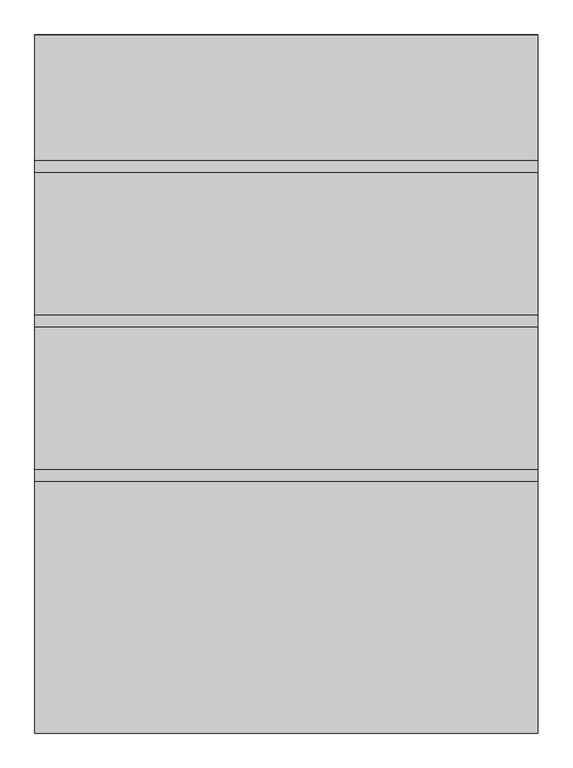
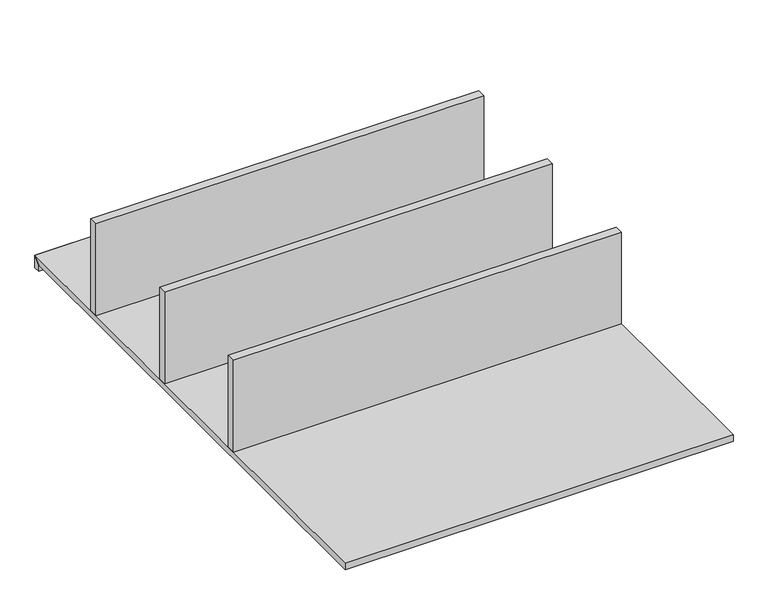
"""IFC4 building model written with IfcOpenShell, lengths in millimetres: proxy geometry, BASYS^U OFFICE 6_ 44 WALL HUNG SHELVES-PARTS SOLID."""

import ifcopenshell
import ifcopenshell.guid

model = None  # the IFC model being written
_history = None  # IfcOwnerHistory: only IFC2X3 demands one
_inside = {}  # id of a spatial element -> (the spatial element, [elements in it])
_under = {}  # id of a project, library or spatial element -> (it, [spatial elements below it])
_declared = {}  # id of a project -> (the project, [libraries it declares])
_typed = {}  # id of a type object -> (the type object, [elements of that type])
_made_of = {}  # id of a material, layer set ... -> (it, [elements and type objects made of it])


def new_model(schema):
    """Start an empty IFC model of exactly this schema.

    Asked for "IFC4X3", IfcOpenShell would pick the latest addendum, in which some entities
    have other attributes; the version numbers below select the first issue.
    IFC2X3 requires an IfcOwnerHistory on every rooted entity: one is made here for all.
    """
    global model, _history
    if schema == "IFC4X3":
        model = ifcopenshell.file(schema_version=(4, 3, 0, 0))
    else:
        model = ifcopenshell.file(schema=schema)
    _inside.clear()
    _under.clear()
    _declared.clear()
    _typed.clear()
    _made_of.clear()
    _history = None
    if model.schema == "IFC2X3":
        org = make("IfcOrganization", Name="unknown")
        user = make(
            "IfcPersonAndOrganization",
            ThePerson=make("IfcPerson", FamilyName="unknown"),
            TheOrganization=org,
        )
        app = make(
            "IfcApplication",
            ApplicationDeveloper=org,
            Version="unknown",
            ApplicationFullName="unknown",
            ApplicationIdentifier="unknown",
        )
        _history = make(
            "IfcOwnerHistory",
            OwningUser=user,
            OwningApplication=app,
            ChangeAction="ADDED",
            CreationDate=0,
        )
    return model


def make(cls, **values):
    """One entity of the class cls with the attributes given. An attribute that is None is left unset."""
    return model.create_entity(
        cls, **{name: value for name, value in values.items() if value is not None}
    )


def rooted(cls, **values):
    """An entity with a GlobalId (a new one), such as an element, a storey or a relation."""
    return make(cls, GlobalId=ifcopenshell.guid.new(), OwnerHistory=_history, **values)


def si_unit(unit_type, name, prefix=None):
    """IfcSIUnit, for example si_unit("LENGTHUNIT", "METRE", prefix="MILLI")."""
    return make("IfcSIUnit", UnitType=unit_type, Prefix=prefix, Name=name)


def assignment(units):
    """IfcUnitAssignment: the units of a project."""
    return None if units is None else make("IfcUnitAssignment", Units=units)


def point(xyz):
    """IfcCartesianPoint."""
    return None if xyz is None else make("IfcCartesianPoint", Coordinates=xyz)


def direction(xyz):
    """IfcDirection."""
    return None if xyz is None else make("IfcDirection", DirectionRatios=xyz)


def frame(location, z_axis=None, x_axis=None):
    """IfcAxis2Placement3D, a coordinate frame: its origin and axes. An axis left out is left unset."""
    return make(
        "IfcAxis2Placement3D",
        Location=point(location),
        Axis=direction(z_axis),
        RefDirection=direction(x_axis),
    )


def origin():
    """The frame at (0, 0, 0) with its axes left unset."""
    return frame((0.0, 0.0, 0.0))


def place(relative_to, where):
    """IfcLocalPlacement: puts the frame where relative to a parent placement (None: the world)."""
    return make(
        "IfcLocalPlacement", PlacementRelTo=relative_to, RelativePlacement=where
    )


def context(
    kind, dimensions, precision=None, world=None, true_north=None, identifier=None
):
    """IfcGeometricRepresentationContext, for example the 3D "Model" context."""
    return make(
        "IfcGeometricRepresentationContext",
        ContextIdentifier=identifier,
        ContextType=kind,
        CoordinateSpaceDimension=dimensions,
        Precision=precision,
        WorldCoordinateSystem=world,
        TrueNorth=true_north,
    )


def project(units=None, contexts=None):
    """IfcProject with its units and contexts."""
    return rooted(
        "IfcProject",
        Name="project",
        RepresentationContexts=contexts,
        UnitsInContext=assignment(units),
    )


def spatial(cls, under=None, at=None, **own):
    """A site, building, storey or space (cls), placed at a placement, below another one or the project."""
    s = rooted(cls, ObjectPlacement=at, **own)
    if under is not None:
        _under.setdefault(under.id(), (under, []))[1].append(s)
    return s


def polyline(points):
    """IfcPolyline through the points."""
    return make("IfcPolyline", Points=[point(p) for p in points])


def outline(outer, holes=None, kind="AREA"):
    """IfcArbitraryClosedProfileDef: a profile drawn as a closed curve; with holes, ...WithVoids."""
    if holes is None:
        return make("IfcArbitraryClosedProfileDef", ProfileType=kind, OuterCurve=outer)
    return make(
        "IfcArbitraryProfileDefWithVoids",
        ProfileType=kind,
        OuterCurve=outer,
        InnerCurves=holes,
    )


def extrude(swept, where, along, depth):
    """IfcExtrudedAreaSolid: the profile swept, set in the frame where, extruded along a direction by depth."""
    return make(
        "IfcExtrudedAreaSolid",
        SweptArea=swept,
        Position=where,
        ExtrudedDirection=direction(along),
        Depth=depth,
    )


def shape(context_of_items, identifier, shape_type, items):
    """IfcShapeRepresentation: the items that make up one representation, for example the "Body"."""
    return make(
        "IfcShapeRepresentation",
        ContextOfItems=context_of_items,
        RepresentationIdentifier=identifier,
        RepresentationType=shape_type,
        Items=items,
    )


def source(mapping_origin, context_of_items, identifier, shape_type, items):
    """IfcRepresentationMap: a shape defined once, which mapped items show again and again."""
    return make(
        "IfcRepresentationMap",
        MappingOrigin=mapping_origin,
        MappedRepresentation=shape(context_of_items, identifier, shape_type, items),
    )


def transform(
    local_origin,
    x_axis=None,
    y_axis=None,
    z_axis=None,
    scale=None,
    scale2=None,
    scale3=None,
    uniform=True,
):
    """IfcCartesianTransformationOperator3D, or its non-uniform kind. x_axis, y_axis, z_axis: its Axis1, 2, 3."""
    if uniform:
        return make(
            "IfcCartesianTransformationOperator3D",
            Axis1=direction(x_axis),
            Axis2=direction(y_axis),
            LocalOrigin=point(local_origin),
            Scale=scale,
            Axis3=direction(z_axis),
        )
    return make(
        "IfcCartesianTransformationOperator3DnonUniform",
        Axis1=direction(x_axis),
        Axis2=direction(y_axis),
        LocalOrigin=point(local_origin),
        Scale=scale,
        Axis3=direction(z_axis),
        Scale2=scale2,
        Scale3=scale3,
    )


def mapped(mapping_source, mapping_target):
    """IfcMappedItem: shows the shape of a source again, moved by a transform."""
    return make(
        "IfcMappedItem", MappingSource=mapping_source, MappingTarget=mapping_target
    )


def made_of(thing, what):
    """Note that an element or type object is made of a material, layer set ...; save() writes the relation."""
    if what is not None:
        _made_of.setdefault(what.id(), (what, []))[1].append(thing)
    return thing


def element(
    cls,
    number,
    at=None,
    inside=None,
    cuts=None,
    type_object=None,
    material=None,
    context=None,
    identifier="Body",
    shape_type=None,
    held_by="IfcProductDefinitionShape",
    body=None,
    shapes=None,
    **own,
):
    """One element of the class cls, such as IfcWall. Its Tag is "e" and its number.

    at: its placement. inside: the storey or other place that contains it. cuts: it is an
    opening in that element (IfcRelVoidsElement). A single representation is given by context,
    identifier, shape_type and body (its items); several are given by shapes. held_by: the class
    of the entity that holds the representations. save() writes the other relations.
    """
    e = rooted(cls, Tag="e%d" % number, ObjectPlacement=at, **own)
    if body is not None:
        shapes = [shape(context, identifier, shape_type, body)]
    if shapes is not None:
        e.Representation = make(held_by, Representations=shapes)
    if inside is not None:
        _inside.setdefault(inside.id(), (inside, []))[1].append(e)
    if cuts is not None:
        rooted(
            "IfcRelVoidsElement", RelatingBuildingElement=cuts, RelatedOpeningElement=e
        )
    if type_object is not None:
        _typed.setdefault(type_object.id(), (type_object, []))[1].append(e)
    return made_of(e, material)


def aggregate(whole, parts):
    """IfcRelAggregates: a whole, such as a stair, and the parts it consists of."""
    return rooted("IfcRelAggregates", RelatingObject=whole, RelatedObjects=parts)


def save(model, path):
    """Write the relations noted so far, then the file.

    IfcRelAggregates (storeys below a building ...), IfcRelContainedInSpatialStructure (elements
    in a storey), IfcRelDefinesByType, IfcRelAssociatesMaterial and IfcRelDeclares: one each for
    every whole, place, type object, material and project.
    """
    for whole, parts in _under.values():
        aggregate(whole, parts)
    for where, things in _inside.values():
        rooted(
            "IfcRelContainedInSpatialStructure",
            RelatedElements=things,
            RelatingStructure=where,
        )
    for kind, things in _typed.values():
        rooted("IfcRelDefinesByType", RelatedObjects=things, RelatingType=kind)
    for what, things in _made_of.values():
        rooted("IfcRelAssociatesMaterial", RelatedObjects=things, RelatingMaterial=what)
    for by, libraries in _declared.values():
        rooted("IfcRelDeclares", RelatingContext=by, RelatedDefinitions=libraries)
    model.write(path)


def generic_models_958da90c(model_context):
    return source(origin(), model_context, "Body", "SweptSolid", [
        extrude(outline(polyline([(1530.35, -19.05), (1530.35, 0.0), (1549.4, 19.05), (1549.4, -19.05), (1530.35, -19.05)])), frame((0.0, 0.0, 0.0), z_axis=(1.0, 0.0, 0.0), x_axis=(0.0, 1.0, 0.0)), (0.0, 0.0, 1.0), 1117.6),
        extrude(outline(polyline([(0.0, 1244.6), (0.0, 1270.0), (1117.6, 1270.0), (1117.6, 1244.6), (0.0, 1244.6)])), frame((0.0, 0.0, 19.05), z_axis=(0.0, 0.0, 1.0), x_axis=(1.0, 0.0, 0.0)), (0.0, 0.0, 1.0), 279.4),
        extrude(outline(polyline([(0.0, 558.8), (0.0, 584.2), (1117.6, 584.2), (1117.6, 558.8), (0.0, 558.8)])), frame((0.0, 0.0, 19.05), z_axis=(0.0, 0.0, 1.0), x_axis=(1.0, 0.0, 0.0)), (0.0, 0.0, 1.0), 279.4),
        extrude(outline(polyline([(1117.6, 927.1), (1117.6, 901.7), (0.0, 901.7), (0.0, 927.1), (1117.6, 927.1)])), frame((0.0, 0.0, 19.05), z_axis=(0.0, 0.0, 1.0), x_axis=(1.0, 0.0, 0.0)), (0.0, 0.0, 1.0), 279.4),
        extrude(outline(polyline([(1549.4, 19.05), (1530.35, 0.0), (0.0, 0.0), (0.0, 19.05), (1549.4, 19.05)])), frame((0.0, 0.0, 0.0), z_axis=(1.0, 0.0, 0.0), x_axis=(0.0, 1.0, 0.0)), (0.0, 0.0, 1.0), 1117.6),
    ])


if __name__ == "__main__":
    model = new_model("IFC4")
    model_context = context("Model", 3, world=origin())
    ifc_project = project(units=[si_unit("LENGTHUNIT", "METRE", prefix="MILLI")], contexts=[model_context])
    site = spatial("IfcSite", under=ifc_project)
    building = spatial("IfcBuilding", under=site)
    placement = place(None, origin())
    generic_models_shape = generic_models_958da90c(model_context)
    element("IfcBuildingElementProxy", 1, Name="BASYS^U OFFICE 6_ 44 WALL HUNG SHELVES-PARTS SOLID", ObjectType="BASYS^U OFFICE 6_ 44 WALL HUNG SHELVES-PARTS SOLID", at=placement, inside=building, context=model_context, shape_type="MappedRepresentation", body=[
        mapped(generic_models_shape, transform((0.0, 0.0, 0.0), x_axis=(1.0, 0.0, 0.0), y_axis=(0.0, 1.0, 0.0), z_axis=(0.0, 0.0, 1.0))),
    ])
    save(model, "model.ifc")
